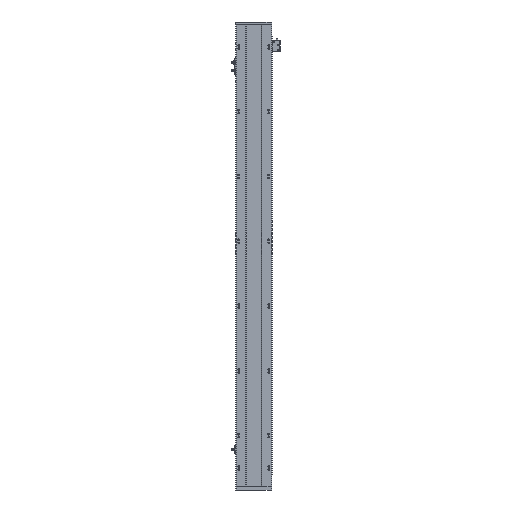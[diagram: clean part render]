
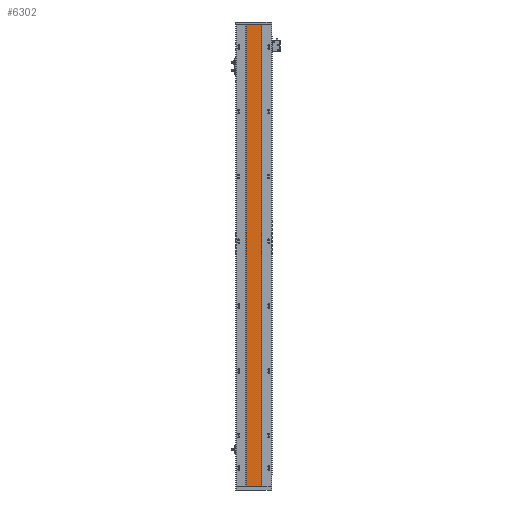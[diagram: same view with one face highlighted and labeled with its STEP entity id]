
A CAD part, front view. The second image highlights one B-rep face of the part: STEP entity #6302.
In plain terms, the highlighted planar face has unit normal (0, -1, 0).
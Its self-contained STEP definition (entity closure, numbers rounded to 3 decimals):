
#906 = CARTESIAN_POINT ( 'NONE',  ( 183.063, 115.96, 0. ) ) ;
#2140 = ORIENTED_EDGE ( 'NONE', *, *, #8386, .F. ) ;
#2802 = LINE ( 'NONE', #19279, #19805 ) ;
#2987 = CARTESIAN_POINT ( 'NONE',  ( 133.07, 115.96, 0. ) ) ;
#3701 = LINE ( 'NONE', #22625, #8189 ) ;
#4713 = ORIENTED_EDGE ( 'NONE', *, *, #9709, .T. ) ;
#5776 = LINE ( 'NONE', #18820, #19665 ) ;
#5851 = VERTEX_POINT ( 'NONE', #14798 ) ;
#6302 = ADVANCED_FACE ( 'NONE', ( #9633 ), #26759, .F. ) ;
#8189 = VECTOR ( 'NONE', #11781, 1000. ) ;
#8386 = EDGE_CURVE ( 'NONE', #15776, #19688, #3701, .T. ) ;
#9633 = FACE_OUTER_BOUND ( 'NONE', #12939, .T. ) ;
#9709 = EDGE_CURVE ( 'NONE', #25632, #19688, #2802, .T. ) ;
#9879 = DIRECTION ( 'NONE',  ( 0., 0., -1. ) ) ;
#11781 = DIRECTION ( 'NONE',  ( 0., 0., -1. ) ) ;
#12113 = LINE ( 'NONE', #22111, #18337 ) ;
#12939 = EDGE_LOOP ( 'NONE', ( #4713, #2140, #23518, #13569 ) ) ;
#13569 = ORIENTED_EDGE ( 'NONE', *, *, #13792, .T. ) ;
#13792 = EDGE_CURVE ( 'NONE', #5851, #25632, #5776, .T. ) ;
#14630 = CARTESIAN_POINT ( 'NONE',  ( 183.063, 115.96, 1540. ) ) ;
#14798 = CARTESIAN_POINT ( 'NONE',  ( 133.07, 115.96, 1540. ) ) ;
#15776 = VERTEX_POINT ( 'NONE', #14630 ) ;
#17071 = DIRECTION ( 'NONE',  ( 1., 0., 0. ) ) ;
#17721 = AXIS2_PLACEMENT_3D ( 'NONE', #20261, #17948, #22220 ) ;
#17948 = DIRECTION ( 'NONE',  ( 0., 1., 0. ) ) ;
#18337 = VECTOR ( 'NONE', #26746, 1000. ) ;
#18820 = CARTESIAN_POINT ( 'NONE',  ( 133.07, 115.96, 1540. ) ) ;
#19279 = CARTESIAN_POINT ( 'NONE',  ( 0., 115.96, 0. ) ) ;
#19665 = VECTOR ( 'NONE', #9879, 1000. ) ;
#19688 = VERTEX_POINT ( 'NONE', #906 ) ;
#19805 = VECTOR ( 'NONE', #17071, 1000. ) ;
#20261 = CARTESIAN_POINT ( 'NONE',  ( 0., 115.96, 1540. ) ) ;
#22111 = CARTESIAN_POINT ( 'NONE',  ( 0., 115.96, 1540. ) ) ;
#22220 = DIRECTION ( 'NONE',  ( -1., 0., 0. ) ) ;
#22625 = CARTESIAN_POINT ( 'NONE',  ( 183.063, 115.96, 1540. ) ) ;
#23518 = ORIENTED_EDGE ( 'NONE', *, *, #25449, .F. ) ;
#25449 = EDGE_CURVE ( 'NONE', #5851, #15776, #12113, .T. ) ;
#25632 = VERTEX_POINT ( 'NONE', #2987 ) ;
#26746 = DIRECTION ( 'NONE',  ( 1., 0., 0. ) ) ;
#26759 = PLANE ( 'NONE',  #17721 ) ;
